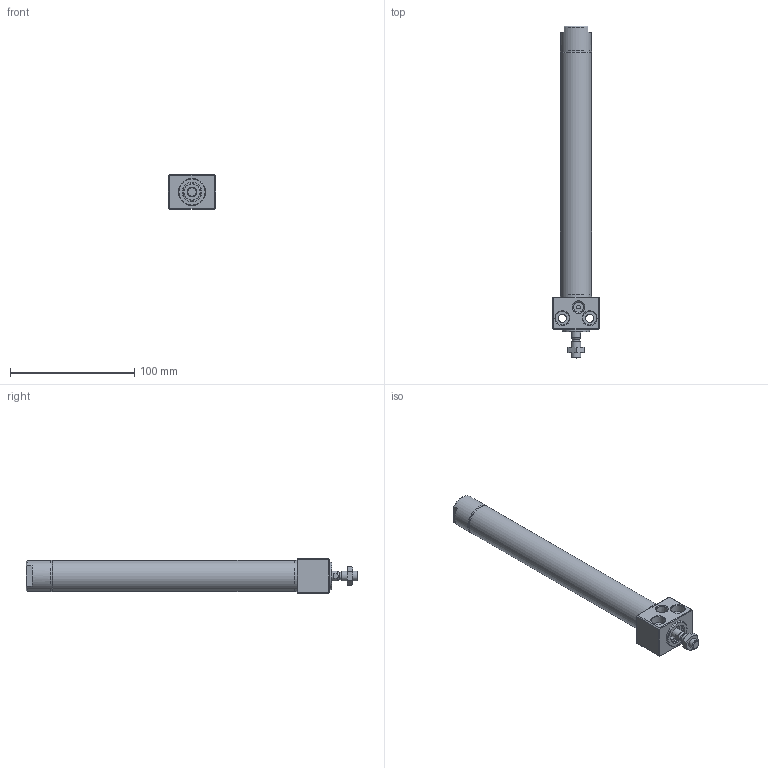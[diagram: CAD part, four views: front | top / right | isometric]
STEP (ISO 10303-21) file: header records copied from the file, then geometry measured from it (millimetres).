
FILE_DESCRIPTION((''),'2;1');
FILE_NAME('I:\3D電子目錄\氣缸\DBS\DBS\DBS20x150.stp','2007-10-08T08:30:26',('Administrator'),(''),'Autodesk Inventor 2008','Autodesk Inventor 2008','');
FILE_SCHEMA(('AUTOMOTIVE_DESIGN { 1 0 10303 214 1 1 1 1 }'));
Length unit declared in the file: millimetre
Products named in the file (1): DBS20x150
Bounding box: 38 x 267.6 x 28 mm (x, y, z)
Volume: 79848.2 mm3; surface area: 46947.5 mm2
Topology: 6 solids, 6 shells, 165 faces, 325 edges, 197 vertices
Faces by surface type: plane 73, cone 41, cylinder 36, bspline 12, torus 3
Full cylindrical faces by diameter (mm): 3 x1, 5 x1, 6 x3, 8 x3, 8.5 x1, 10 x1, 10.5 x2, 12 x3, 14.5 x2, 16 x2, 17 x1, 18 x2, 20 x1, 20.2 x2, 22 x1, 22.2 x6, 25 x4
Entity records: 4012 total; most frequent: CARTESIAN_POINT 924, DIRECTION 650, ORIENTED_EDGE 486, AXIS2_PLACEMENT_3D 287, EDGE_LOOP 282, EDGE_CURVE 243, VERTEX_POINT 189, FACE_OUTER_BOUND 165
